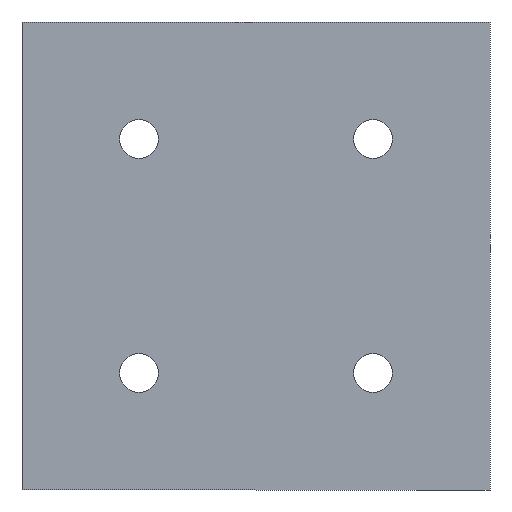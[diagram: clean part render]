
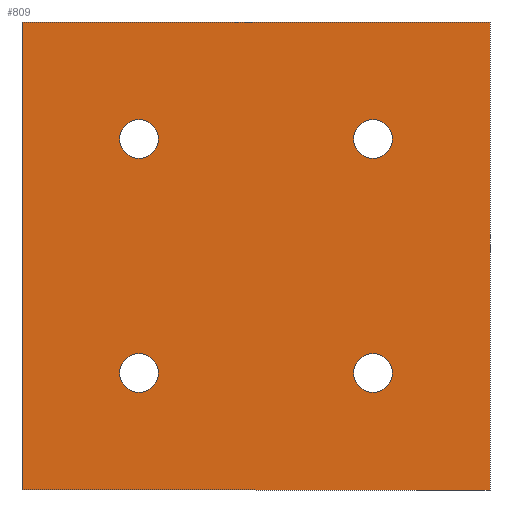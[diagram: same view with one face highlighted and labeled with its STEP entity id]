
A CAD part, front view. The second image highlights one B-rep face of the part: STEP entity #809.
In plain terms, the highlighted planar face has unit normal (0, -1, 0).
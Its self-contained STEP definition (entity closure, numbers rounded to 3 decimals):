
#7 = CARTESIAN_POINT ( 'NONE',  ( -40., 0., -30. ) ) ;
#14 = DIRECTION ( 'NONE',  ( 0., 0., -1. ) ) ;
#26 = DIRECTION ( 'NONE',  ( 1., 0., 0. ) ) ;
#46 = CARTESIAN_POINT ( 'NONE',  ( -20., 0., 30. ) ) ;
#59 = DIRECTION ( 'NONE',  ( 0., 0., -1. ) ) ;
#61 = EDGE_CURVE ( 'NONE', #1232, #916, #310, .T. ) ;
#88 = VECTOR ( 'NONE', #926, 1000. ) ;
#93 = DIRECTION ( 'NONE',  ( 0., 1., 0. ) ) ;
#99 = DIRECTION ( 'NONE',  ( 0., 0., -1. ) ) ;
#110 = AXIS2_PLACEMENT_3D ( 'NONE', #7, #864, #263 ) ;
#112 = CIRCLE ( 'NONE', #936, 3.3 ) ;
#124 = CARTESIAN_POINT ( 'NONE',  ( 20., 0., 33.3 ) ) ;
#186 = EDGE_CURVE ( 'NONE', #1034, #235, #876, .T. ) ;
#189 = VERTEX_POINT ( 'NONE', #124 ) ;
#190 = FACE_BOUND ( 'NONE', #540, .T. ) ;
#197 = VERTEX_POINT ( 'NONE', #614 ) ;
#207 = LINE ( 'NONE', #1104, #371 ) ;
#208 = EDGE_CURVE ( 'NONE', #235, #1034, #599, .T. ) ;
#235 = VERTEX_POINT ( 'NONE', #339 ) ;
#249 = ORIENTED_EDGE ( 'NONE', *, *, #594, .F. ) ;
#257 = VERTEX_POINT ( 'NONE', #1014 ) ;
#263 = DIRECTION ( 'NONE',  ( 0., 0., 1. ) ) ;
#274 = DIRECTION ( 'NONE',  ( 1., 0., 0. ) ) ;
#286 = LINE ( 'NONE', #1220, #369 ) ;
#310 = CIRCLE ( 'NONE', #756, 3.3 ) ;
#315 = LINE ( 'NONE', #697, #1152 ) ;
#334 = DIRECTION ( 'NONE',  ( 0., 0., -1. ) ) ;
#339 = CARTESIAN_POINT ( 'NONE',  ( -20., 0., 26.7 ) ) ;
#344 = LINE ( 'NONE', #845, #88 ) ;
#347 = ORIENTED_EDGE ( 'NONE', *, *, #61, .T. ) ;
#350 = AXIS2_PLACEMENT_3D ( 'NONE', #1046, #93, #14 ) ;
#355 = CARTESIAN_POINT ( 'NONE',  ( -20., 0., 33.3 ) ) ;
#369 = VECTOR ( 'NONE', #274, 1000. ) ;
#371 = VECTOR ( 'NONE', #26, 1000. ) ;
#379 = DIRECTION ( 'NONE',  ( 0., 1., 0. ) ) ;
#400 = DIRECTION ( 'NONE',  ( 0., 1., 0. ) ) ;
#407 = DIRECTION ( 'NONE',  ( 0., 1., 0. ) ) ;
#421 = CARTESIAN_POINT ( 'NONE',  ( 20., 0., -10. ) ) ;
#428 = DIRECTION ( 'NONE',  ( 0., 1., 0. ) ) ;
#440 = VERTEX_POINT ( 'NONE', #951 ) ;
#456 = ORIENTED_EDGE ( 'NONE', *, *, #529, .T. ) ;
#474 = AXIS2_PLACEMENT_3D ( 'NONE', #1182, #407, #989 ) ;
#478 = FACE_BOUND ( 'NONE', #689, .T. ) ;
#482 = VERTEX_POINT ( 'NONE', #900 ) ;
#483 = FACE_OUTER_BOUND ( 'NONE', #844, .T. ) ;
#494 = AXIS2_PLACEMENT_3D ( 'NONE', #46, #428, #334 ) ;
#501 = ORIENTED_EDGE ( 'NONE', *, *, #1042, .T. ) ;
#504 = DIRECTION ( 'NONE',  ( 0., 1., 0. ) ) ;
#512 = AXIS2_PLACEMENT_3D ( 'NONE', #580, #379, #99 ) ;
#522 = EDGE_CURVE ( 'NONE', #257, #197, #207, .T. ) ;
#529 = EDGE_CURVE ( 'NONE', #533, #482, #816, .T. ) ;
#533 = VERTEX_POINT ( 'NONE', #881 ) ;
#539 = DIRECTION ( 'NONE',  ( 0., 0., -1. ) ) ;
#540 = EDGE_LOOP ( 'NONE', ( #501, #870 ) ) ;
#548 = DIRECTION ( 'NONE',  ( 0., 1., 0. ) ) ;
#579 = ORIENTED_EDGE ( 'NONE', *, *, #186, .T. ) ;
#580 = CARTESIAN_POINT ( 'NONE',  ( -20., 0., -10. ) ) ;
#594 = EDGE_CURVE ( 'NONE', #440, #257, #344, .T. ) ;
#599 = CIRCLE ( 'NONE', #494, 3.3 ) ;
#602 = DIRECTION ( 'NONE',  ( 0., 0., -1. ) ) ;
#609 = CARTESIAN_POINT ( 'NONE',  ( -20., 0., -10. ) ) ;
#611 = CARTESIAN_POINT ( 'NONE',  ( -20., 0., -13.3 ) ) ;
#614 = CARTESIAN_POINT ( 'NONE',  ( 40., 0., 50. ) ) ;
#617 = VERTEX_POINT ( 'NONE', #747 ) ;
#622 = EDGE_LOOP ( 'NONE', ( #713, #579 ) ) ;
#651 = ORIENTED_EDGE ( 'NONE', *, *, #522, .F. ) ;
#683 = EDGE_CURVE ( 'NONE', #482, #533, #774, .T. ) ;
#689 = EDGE_LOOP ( 'NONE', ( #884, #347 ) ) ;
#697 = CARTESIAN_POINT ( 'NONE',  ( 40., 0., -30. ) ) ;
#713 = ORIENTED_EDGE ( 'NONE', *, *, #208, .T. ) ;
#735 = CIRCLE ( 'NONE', #350, 3.3 ) ;
#744 = EDGE_CURVE ( 'NONE', #916, #1232, #1118, .T. ) ;
#747 = CARTESIAN_POINT ( 'NONE',  ( 20., 0., 26.7 ) ) ;
#753 = FACE_BOUND ( 'NONE', #622, .T. ) ;
#756 = AXIS2_PLACEMENT_3D ( 'NONE', #609, #504, #1105 ) ;
#760 = FACE_BOUND ( 'NONE', #1203, .T. ) ;
#774 = CIRCLE ( 'NONE', #1195, 3.3 ) ;
#785 = EDGE_CURVE ( 'NONE', #189, #617, #735, .T. ) ;
#809 = ADVANCED_FACE ( 'NONE', ( #478, #760, #190, #753, #483 ), #1132, .T. ) ;
#816 = CIRCLE ( 'NONE', #1060, 3.3 ) ;
#819 = CARTESIAN_POINT ( 'NONE',  ( 20., 0., 30. ) ) ;
#844 = EDGE_LOOP ( 'NONE', ( #651, #249, #1064, #1101 ) ) ;
#845 = CARTESIAN_POINT ( 'NONE',  ( -40., 0., -30. ) ) ;
#864 = DIRECTION ( 'NONE',  ( 0., -1., 0. ) ) ;
#870 = ORIENTED_EDGE ( 'NONE', *, *, #785, .T. ) ;
#876 = CIRCLE ( 'NONE', #474, 3.3 ) ;
#881 = CARTESIAN_POINT ( 'NONE',  ( 20., 0., -13.3 ) ) ;
#884 = ORIENTED_EDGE ( 'NONE', *, *, #744, .T. ) ;
#885 = DIRECTION ( 'NONE',  ( 0., 0., 1. ) ) ;
#900 = CARTESIAN_POINT ( 'NONE',  ( 20., 0., -6.7 ) ) ;
#916 = VERTEX_POINT ( 'NONE', #611 ) ;
#920 = CARTESIAN_POINT ( 'NONE',  ( 20., 0., -10. ) ) ;
#922 = EDGE_CURVE ( 'NONE', #1108, #197, #315, .T. ) ;
#926 = DIRECTION ( 'NONE',  ( 0., 0., 1. ) ) ;
#936 = AXIS2_PLACEMENT_3D ( 'NONE', #819, #1114, #539 ) ;
#951 = CARTESIAN_POINT ( 'NONE',  ( -40., 0., -30. ) ) ;
#989 = DIRECTION ( 'NONE',  ( 0., 0., -1. ) ) ;
#1014 = CARTESIAN_POINT ( 'NONE',  ( -40., 0., 50. ) ) ;
#1034 = VERTEX_POINT ( 'NONE', #355 ) ;
#1042 = EDGE_CURVE ( 'NONE', #617, #189, #112, .T. ) ;
#1046 = CARTESIAN_POINT ( 'NONE',  ( 20., 0., 30. ) ) ;
#1055 = CARTESIAN_POINT ( 'NONE',  ( -20., 0., -6.7 ) ) ;
#1060 = AXIS2_PLACEMENT_3D ( 'NONE', #421, #400, #602 ) ;
#1064 = ORIENTED_EDGE ( 'NONE', *, *, #1202, .T. ) ;
#1101 = ORIENTED_EDGE ( 'NONE', *, *, #922, .T. ) ;
#1104 = CARTESIAN_POINT ( 'NONE',  ( -40., 0., 50. ) ) ;
#1105 = DIRECTION ( 'NONE',  ( 0., 0., -1. ) ) ;
#1108 = VERTEX_POINT ( 'NONE', #1120 ) ;
#1114 = DIRECTION ( 'NONE',  ( 0., 1., 0. ) ) ;
#1118 = CIRCLE ( 'NONE', #512, 3.3 ) ;
#1120 = CARTESIAN_POINT ( 'NONE',  ( 40., 0., -30. ) ) ;
#1132 = PLANE ( 'NONE',  #110 ) ;
#1152 = VECTOR ( 'NONE', #885, 1000. ) ;
#1182 = CARTESIAN_POINT ( 'NONE',  ( -20., 0., 30. ) ) ;
#1190 = ORIENTED_EDGE ( 'NONE', *, *, #683, .T. ) ;
#1195 = AXIS2_PLACEMENT_3D ( 'NONE', #920, #548, #59 ) ;
#1202 = EDGE_CURVE ( 'NONE', #440, #1108, #286, .T. ) ;
#1203 = EDGE_LOOP ( 'NONE', ( #456, #1190 ) ) ;
#1220 = CARTESIAN_POINT ( 'NONE',  ( -40., 0., -30. ) ) ;
#1232 = VERTEX_POINT ( 'NONE', #1055 ) ;
